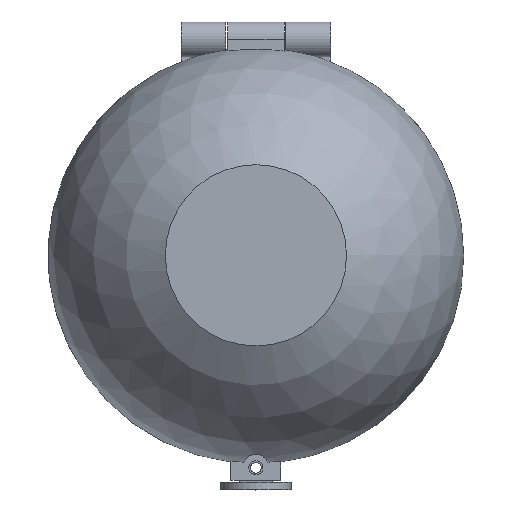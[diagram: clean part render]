
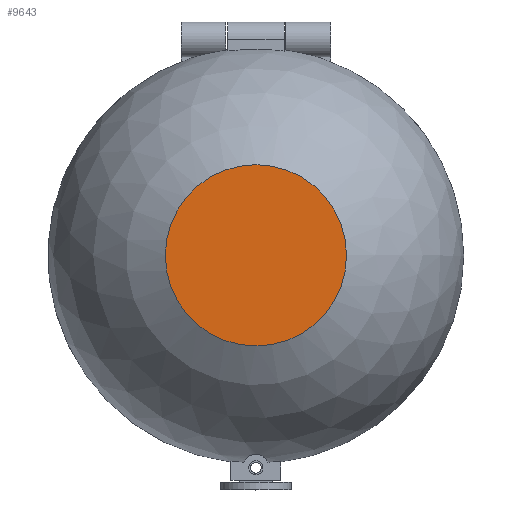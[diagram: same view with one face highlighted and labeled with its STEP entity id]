
A CAD part, top view. The second image highlights one B-rep face of the part: STEP entity #9643.
In plain terms, the highlighted planar face has unit normal (0, 0, 1).
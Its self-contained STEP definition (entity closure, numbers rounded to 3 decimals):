
#7546 = SPHERICAL_SURFACE('',#7547,50.);
#7547 = AXIS2_PLACEMENT_3D('',#7548,#7549,#7550);
#7548 = CARTESIAN_POINT('',(0.,0.,0.6));
#7549 = DIRECTION('',(0.,0.,1.));
#7550 = DIRECTION('',(1.,0.,0.));
#8184 = VERTEX_POINT('',#8185);
#8185 = CARTESIAN_POINT('',(21.794,0.,45.6));
#8207 = EDGE_CURVE('',#8184,#8184,#8208,.T.);
#8208 = SURFACE_CURVE('',#8209,(#8214,#8221),.PCURVE_S1.);
#8209 = CIRCLE('',#8210,21.794);
#8210 = AXIS2_PLACEMENT_3D('',#8211,#8212,#8213);
#8211 = CARTESIAN_POINT('',(0.,0.,45.6));
#8212 = DIRECTION('',(0.,0.,1.));
#8213 = DIRECTION('',(1.,0.,-0.));
#8214 = PCURVE('',#7546,#8215);
#8215 = DEFINITIONAL_REPRESENTATION('',(#8216),#8220);
#8216 = LINE('',#8217,#8218);
#8217 = CARTESIAN_POINT('',(0.,1.12));
#8218 = VECTOR('',#8219,1.);
#8219 = DIRECTION('',(1.,0.));
#8220 = ( GEOMETRIC_REPRESENTATION_CONTEXT(2) 
PARAMETRIC_REPRESENTATION_CONTEXT() REPRESENTATION_CONTEXT('2D SPACE',''
  ) );
#8221 = PCURVE('',#8222,#8227);
#8222 = PLANE('',#8223);
#8223 = AXIS2_PLACEMENT_3D('',#8224,#8225,#8226);
#8224 = CARTESIAN_POINT('',(-65.,-65.,45.6));
#8225 = DIRECTION('',(0.,0.,1.));
#8226 = DIRECTION('',(1.,0.,0.));
#8227 = DEFINITIONAL_REPRESENTATION('',(#8228),#8232);
#8228 = CIRCLE('',#8229,21.794);
#8229 = AXIS2_PLACEMENT_2D('',#8230,#8231);
#8230 = CARTESIAN_POINT('',(65.,65.));
#8231 = DIRECTION('',(1.,0.));
#8232 = ( GEOMETRIC_REPRESENTATION_CONTEXT(2) 
PARAMETRIC_REPRESENTATION_CONTEXT() REPRESENTATION_CONTEXT('2D SPACE',''
  ) );
#9643 = ADVANCED_FACE('',(#9644),#8222,.T.);
#9644 = FACE_BOUND('',#9645,.T.);
#9645 = EDGE_LOOP('',(#9646));
#9646 = ORIENTED_EDGE('',*,*,#8207,.T.);
